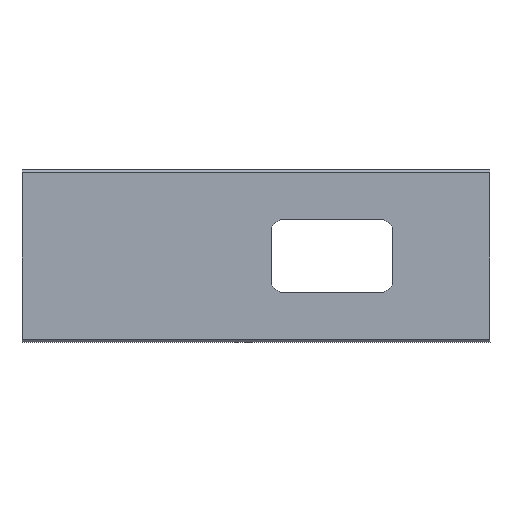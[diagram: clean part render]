
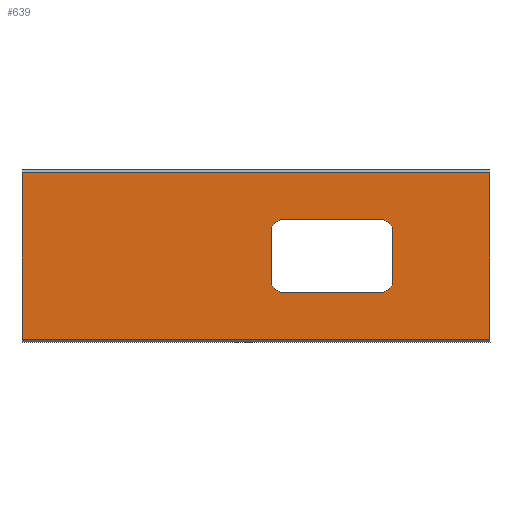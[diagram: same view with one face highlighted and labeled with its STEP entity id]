
A CAD part, top view. The second image highlights one B-rep face of the part: STEP entity #639.
In plain terms, the highlighted planar face has unit normal (0, 0, 1).
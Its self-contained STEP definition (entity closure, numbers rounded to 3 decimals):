
#21 = EDGE_CURVE ( 'NONE', #371, #28, #294, .T. ) ;
#26 = CARTESIAN_POINT ( 'NONE',  ( 201.689, 113.473, 0. ) ) ;
#28 = VERTEX_POINT ( 'NONE', #645 ) ;
#32 = DIRECTION ( 'NONE',  ( 1., 0., 0. ) ) ;
#33 = ORIENTED_EDGE ( 'NONE', *, *, #242, .T. ) ;
#55 = VECTOR ( 'NONE', #628, 1000. ) ;
#62 = EDGE_CURVE ( 'NONE', #258, #269, #418, .T. ) ;
#74 = CARTESIAN_POINT ( 'NONE',  ( 381.689, 164.475, 0. ) ) ;
#78 = LINE ( 'NONE', #170, #529 ) ;
#85 = CARTESIAN_POINT ( 'NONE',  ( 291.689, 123.473, 0. ) ) ;
#88 = EDGE_LOOP ( 'NONE', ( #184, #124, #33, #140, #627, #453, #552, #330 ) ) ;
#91 = VECTOR ( 'NONE', #619, 1000. ) ;
#105 = DIRECTION ( 'NONE',  ( -1., 0., 0. ) ) ;
#107 = EDGE_CURVE ( 'NONE', #269, #228, #554, .T. ) ;
#110 = VECTOR ( 'NONE', #470, 1000. ) ;
#123 = LINE ( 'NONE', #367, #169 ) ;
#124 = ORIENTED_EDGE ( 'NONE', *, *, #21, .T. ) ;
#138 = VERTEX_POINT ( 'NONE', #203 ) ;
#140 = ORIENTED_EDGE ( 'NONE', *, *, #578, .T. ) ;
#150 = VECTOR ( 'NONE', #204, 1000. ) ;
#151 = DIRECTION ( 'NONE',  ( -1., 0., 0. ) ) ;
#158 = CIRCLE ( 'NONE', #517, 10. ) ;
#160 = CARTESIAN_POINT ( 'NONE',  ( 301.689, 73.473, 0. ) ) ;
#161 = ORIENTED_EDGE ( 'NONE', *, *, #565, .T. ) ;
#164 = ORIENTED_EDGE ( 'NONE', *, *, #296, .T. ) ;
#169 = VECTOR ( 'NONE', #617, 1000. ) ;
#170 = CARTESIAN_POINT ( 'NONE',  ( 201.689, -499999.535, 0. ) ) ;
#172 = CARTESIAN_POINT ( 'NONE',  ( -3.307, 24.854, 0. ) ) ;
#173 = EDGE_CURVE ( 'NONE', #561, #360, #267, .T. ) ;
#184 = ORIENTED_EDGE ( 'NONE', *, *, #442, .T. ) ;
#186 = CARTESIAN_POINT ( 'NONE',  ( 637.992, -499999.535, 0. ) ) ;
#191 = CIRCLE ( 'NONE', #607, 10. ) ;
#192 = DIRECTION ( 'NONE',  ( 0., 0., -1. ) ) ;
#203 = CARTESIAN_POINT ( 'NONE',  ( 211.689, 63.473, 0. ) ) ;
#204 = DIRECTION ( 'NONE',  ( 0., -1., 0. ) ) ;
#227 = CARTESIAN_POINT ( 'NONE',  ( 637.992, 24.854, 0. ) ) ;
#228 = VERTEX_POINT ( 'NONE', #85 ) ;
#231 = EDGE_CURVE ( 'NONE', #322, #258, #78, .T. ) ;
#240 = ORIENTED_EDGE ( 'NONE', *, *, #173, .T. ) ;
#241 = CARTESIAN_POINT ( 'NONE',  ( 637.992, 162.092, 0. ) ) ;
#242 = EDGE_CURVE ( 'NONE', #28, #138, #467, .T. ) ;
#253 = LINE ( 'NONE', #447, #150 ) ;
#258 = VERTEX_POINT ( 'NONE', #26 ) ;
#267 = LINE ( 'NONE', #74, #91 ) ;
#269 = VERTEX_POINT ( 'NONE', #372 ) ;
#271 = DIRECTION ( 'NONE',  ( -1., 0., 0. ) ) ;
#274 = CARTESIAN_POINT ( 'NONE',  ( 381.689, 24.854, 0. ) ) ;
#279 = DIRECTION ( 'NONE',  ( 0., 1., 0. ) ) ;
#294 = CIRCLE ( 'NONE', #623, 10. ) ;
#296 = EDGE_CURVE ( 'NONE', #360, #558, #316, .T. ) ;
#298 = DIRECTION ( 'NONE',  ( 0., -1., 0. ) ) ;
#301 = DIRECTION ( 'NONE',  ( 0., 0., -1. ) ) ;
#305 = DIRECTION ( 'NONE',  ( 0., 0., -1. ) ) ;
#316 = LINE ( 'NONE', #241, #55 ) ;
#317 = LINE ( 'NONE', #227, #642 ) ;
#322 = VERTEX_POINT ( 'NONE', #355 ) ;
#323 = AXIS2_PLACEMENT_3D ( 'NONE', #186, #192, #298 ) ;
#330 = ORIENTED_EDGE ( 'NONE', *, *, #339, .T. ) ;
#337 = FACE_OUTER_BOUND ( 'NONE', #583, .T. ) ;
#339 = EDGE_CURVE ( 'NONE', #228, #585, #158, .T. ) ;
#341 = CARTESIAN_POINT ( 'NONE',  ( 637.992, 123.473, 0. ) ) ;
#343 = PLANE ( 'NONE',  #323 ) ;
#344 = VECTOR ( 'NONE', #397, 1000. ) ;
#348 = CARTESIAN_POINT ( 'NONE',  ( 291.689, 113.473, 0. ) ) ;
#355 = CARTESIAN_POINT ( 'NONE',  ( 201.689, 73.473, 0. ) ) ;
#360 = VERTEX_POINT ( 'NONE', #548 ) ;
#361 = DIRECTION ( 'NONE',  ( -1., 0., 0. ) ) ;
#362 = CARTESIAN_POINT ( 'NONE',  ( 211.689, 73.473, 0. ) ) ;
#366 = CARTESIAN_POINT ( 'NONE',  ( 637.992, 63.473, 0. ) ) ;
#367 = CARTESIAN_POINT ( 'NONE',  ( -3.523, -499999.535, 0. ) ) ;
#371 = VERTEX_POINT ( 'NONE', #160 ) ;
#372 = CARTESIAN_POINT ( 'NONE',  ( 211.689, 123.473, 0. ) ) ;
#377 = AXIS2_PLACEMENT_3D ( 'NONE', #534, #305, #361 ) ;
#397 = DIRECTION ( 'NONE',  ( 1., 0., 0. ) ) ;
#418 = CIRCLE ( 'NONE', #377, 10. ) ;
#420 = DIRECTION ( 'NONE',  ( 0., 0., -1. ) ) ;
#431 = CARTESIAN_POINT ( 'NONE',  ( -3.307, 162.092, 0. ) ) ;
#442 = EDGE_CURVE ( 'NONE', #585, #371, #253, .T. ) ;
#447 = CARTESIAN_POINT ( 'NONE',  ( 301.689, -499999.535, 0. ) ) ;
#453 = ORIENTED_EDGE ( 'NONE', *, *, #62, .T. ) ;
#467 = LINE ( 'NONE', #366, #110 ) ;
#470 = DIRECTION ( 'NONE',  ( -1., 0., 0. ) ) ;
#493 = ORIENTED_EDGE ( 'NONE', *, *, #546, .T. ) ;
#517 = AXIS2_PLACEMENT_3D ( 'NONE', #348, #301, #105 ) ;
#529 = VECTOR ( 'NONE', #279, 1000. ) ;
#534 = CARTESIAN_POINT ( 'NONE',  ( 211.689, 113.473, 0. ) ) ;
#541 = CARTESIAN_POINT ( 'NONE',  ( 291.689, 73.473, 0. ) ) ;
#546 = EDGE_CURVE ( 'NONE', #634, #561, #317, .T. ) ;
#548 = CARTESIAN_POINT ( 'NONE',  ( 381.689, 162.092, 0. ) ) ;
#552 = ORIENTED_EDGE ( 'NONE', *, *, #107, .T. ) ;
#554 = LINE ( 'NONE', #341, #344 ) ;
#558 = VERTEX_POINT ( 'NONE', #431 ) ;
#561 = VERTEX_POINT ( 'NONE', #274 ) ;
#565 = EDGE_CURVE ( 'NONE', #558, #634, #123, .T. ) ;
#574 = CARTESIAN_POINT ( 'NONE',  ( 301.689, 113.473, 0. ) ) ;
#578 = EDGE_CURVE ( 'NONE', #138, #322, #191, .T. ) ;
#583 = EDGE_LOOP ( 'NONE', ( #240, #164, #161, #493 ) ) ;
#585 = VERTEX_POINT ( 'NONE', #574 ) ;
#607 = AXIS2_PLACEMENT_3D ( 'NONE', #362, #420, #271 ) ;
#617 = DIRECTION ( 'NONE',  ( 0., -1., 0. ) ) ;
#619 = DIRECTION ( 'NONE',  ( 0., 1., 0. ) ) ;
#623 = AXIS2_PLACEMENT_3D ( 'NONE', #541, #638, #151 ) ;
#627 = ORIENTED_EDGE ( 'NONE', *, *, #231, .T. ) ;
#628 = DIRECTION ( 'NONE',  ( -1., 0., 0. ) ) ;
#632 = FACE_BOUND ( 'NONE', #88, .T. ) ;
#634 = VERTEX_POINT ( 'NONE', #172 ) ;
#638 = DIRECTION ( 'NONE',  ( 0., 0., -1. ) ) ;
#639 = ADVANCED_FACE ( 'NONE', ( #632, #337 ), #343, .F. ) ;
#642 = VECTOR ( 'NONE', #32, 1000. ) ;
#645 = CARTESIAN_POINT ( 'NONE',  ( 291.689, 63.473, 0. ) ) ;
